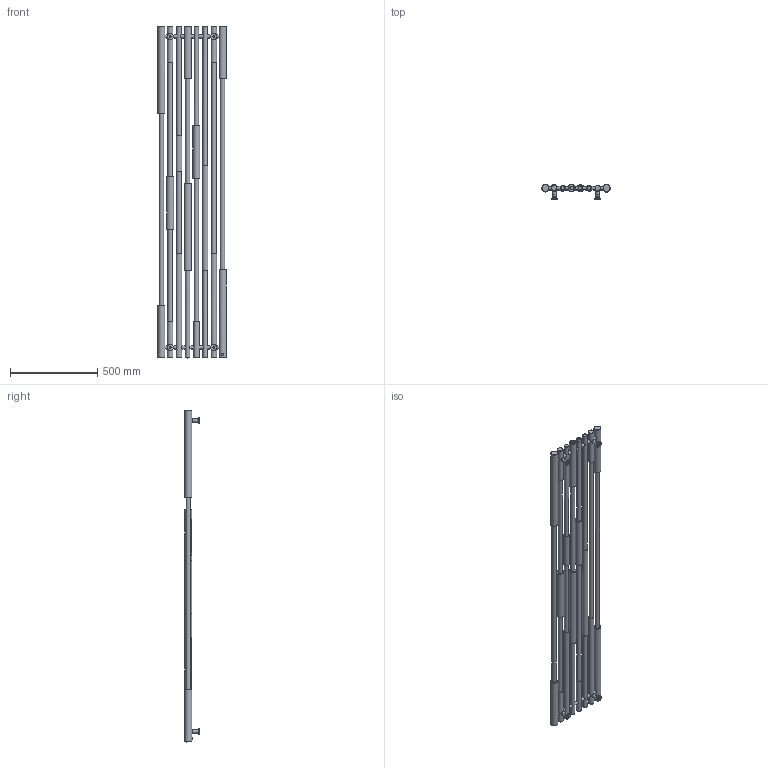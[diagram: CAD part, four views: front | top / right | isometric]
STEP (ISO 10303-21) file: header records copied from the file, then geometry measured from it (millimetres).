
FILE_DESCRIPTION((''),'2;1');
FILE_NAME('Z:\R\G\P\RGP103 - Grzejnik Tube (Cane)\Work\Inventor\Marketing\Katalog 2012\CAD 3D\TUB-1900-390-ZX.stp','2012-07-12T12:56:52',('KurKa'),(''),'Autodesk Inventor 2012','Autodesk Inventor 2012','');
FILE_SCHEMA(('AUTOMOTIVE_DESIGN { 1 0 10303 214 1 1 1 1 }'));
Length unit declared in the file: millimetre
Products named in the file (3): TUB-1900-390-ZX; TUB-1900-390-ZX v1; Konsola Ribbon
Assembly tree (5 placements, depth 2):
  TUB-1900-390-ZX
    TUB-1900-390-ZX v1
    Konsola Ribbon  x4
Bounding box: 390 x 83 x 1900 mm (x, y, z)
Volume: 10776514.7 mm3; surface area: 1469977.3 mm2
Topology: 5 solids, 5 shells, 177 faces, 387 edges, 267 vertices
Faces by surface type: cylinder 80, plane 68, cone 21, torus 8
Full cylindrical faces by diameter (mm): 4.134 x4, 10 x4, 11.445 x1, 15.9 x1, 17 x4, 18 x14, 18.631 x2, 19 x4, 22 x4, 25 x13, 32 x8, 35 x4, 40 x8
Entity records: 4699 total; most frequent: CARTESIAN_POINT 2021, DIRECTION 518, ORIENTED_EDGE 340, EDGE_LOOP 288, AXIS2_PLACEMENT_3D 255, EDGE_CURVE 170, VERTEX_POINT 166, FACE_BOUND 153
